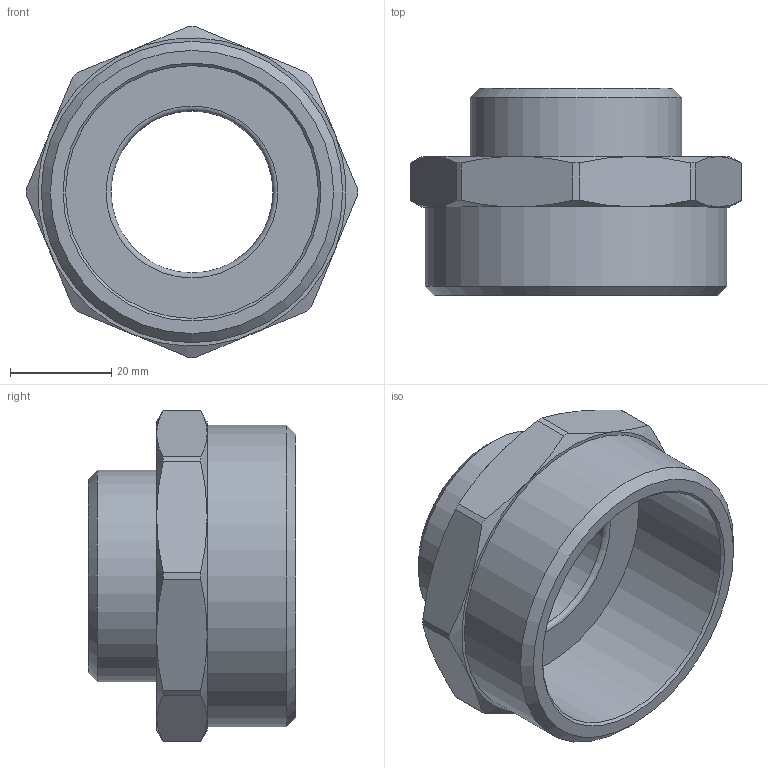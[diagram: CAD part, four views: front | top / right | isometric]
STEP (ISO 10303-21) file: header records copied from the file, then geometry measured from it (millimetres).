
FILE_DESCRIPTION(('STEP AP203'), '1');
FILE_NAME('ÂÐ.753157.014 - VTr.580.N.0907 Íèïïåëü G2xG1 1-4', '2024-07-03T10:25:22', ('Boss'), (''), 'C3D Converter', 'C3D Toolkit', '');
FILE_SCHEMA(('CONFIG_CONTROL_DESIGN'));
Length unit declared in the file: millimetre
Products named in the file (1): ВР.753157.014
Bounding box: 65.5 x 41 x 65.5 mm (x, y, z)
Volume: 37369.7 mm3; surface area: 16464.5 mm2
Topology: 1 solids, 1 shells, 40 faces, 90 edges, 55 vertices
Faces by surface type: cone 14, plane 13, cylinder 12, torus 1
Full cylindrical faces by diameter (mm): 32 x1, 41.91 x1, 50 x1, 59.614 x1
Entity records: 1673 total; most frequent: CARTESIAN_POINT 799, DIRECTION 176, ORIENTED_EDGE 162, EDGE_CURVE 81, AXIS2_PLACEMENT_3D 80, VERTEX_POINT 55, EDGE_LOOP 54, ADVANCED_FACE 40
